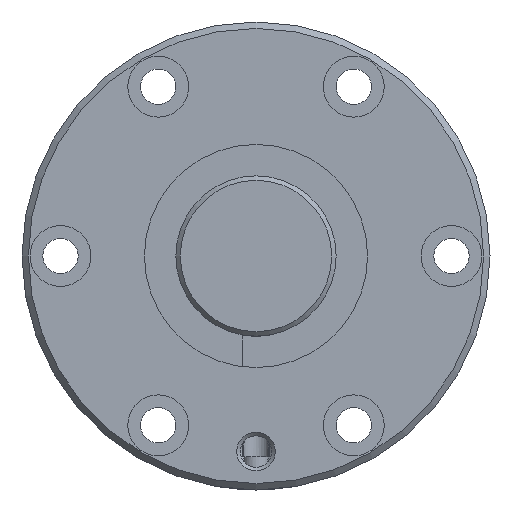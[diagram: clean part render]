
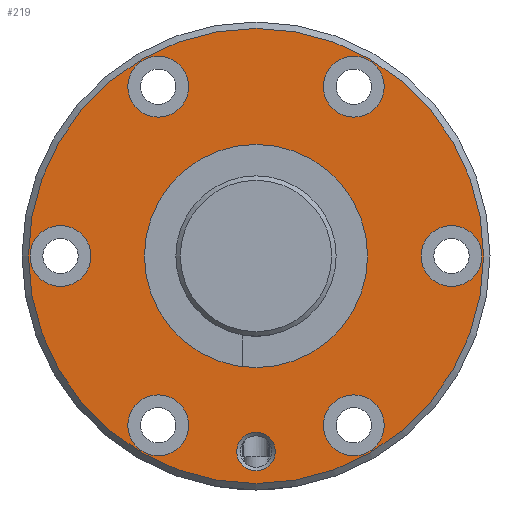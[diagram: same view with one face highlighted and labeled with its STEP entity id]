
A CAD part, left-side view. The second image highlights one B-rep face of the part: STEP entity #219.
In plain terms, the highlighted planar face has unit normal (-1, 0, 0).
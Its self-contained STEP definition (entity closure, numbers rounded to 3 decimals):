
#219 = ADVANCED_FACE( '', ( #390, #391, #392, #393, #394, #395, #396, #397, #398 ), #399, .T. );
#390 = FACE_BOUND( '', #629, .T. );
#391 = FACE_BOUND( '', #630, .T. );
#392 = FACE_BOUND( '', #631, .T. );
#393 = FACE_BOUND( '', #632, .T. );
#394 = FACE_BOUND( '', #633, .T. );
#395 = FACE_BOUND( '', #634, .T. );
#396 = FACE_BOUND( '', #635, .T. );
#397 = FACE_BOUND( '', #636, .T. );
#398 = FACE_OUTER_BOUND( '', #637, .T. );
#399 = PLANE( '', #638 );
#629 = EDGE_LOOP( '', ( #1059 ) );
#630 = EDGE_LOOP( '', ( #1060 ) );
#631 = EDGE_LOOP( '', ( #1061 ) );
#632 = EDGE_LOOP( '', ( #1062 ) );
#633 = EDGE_LOOP( '', ( #1063 ) );
#634 = EDGE_LOOP( '', ( #1064 ) );
#635 = EDGE_LOOP( '', ( #1065 ) );
#636 = EDGE_LOOP( '', ( #1066 ) );
#637 = EDGE_LOOP( '', ( #1067 ) );
#638 = AXIS2_PLACEMENT_3D( '', #1068, #1069, #1070 );
#1059 = ORIENTED_EDGE( '', *, *, #1342, .T. );
#1060 = ORIENTED_EDGE( '', *, *, #1343, .T. );
#1061 = ORIENTED_EDGE( '', *, *, #1265, .T. );
#1062 = ORIENTED_EDGE( '', *, *, #1341, .T. );
#1063 = ORIENTED_EDGE( '', *, *, #1344, .T. );
#1064 = ORIENTED_EDGE( '', *, *, #1345, .T. );
#1065 = ORIENTED_EDGE( '', *, *, #1346, .T. );
#1066 = ORIENTED_EDGE( '', *, *, #1347, .T. );
#1067 = ORIENTED_EDGE( '', *, *, #1348, .F. );
#1068 = CARTESIAN_POINT( '', ( 0., 35.5, 0. ) );
#1069 = DIRECTION( '', ( -1., 0., 0. ) );
#1070 = DIRECTION( '', ( 0., 0., 1. ) );
#1265 = EDGE_CURVE( '', #1419, #1419, #1420, .T. );
#1341 = EDGE_CURVE( '', #1549, #1549, #1550, .T. );
#1342 = EDGE_CURVE( '', #1551, #1551, #1552, .T. );
#1343 = EDGE_CURVE( '', #1553, #1553, #1554, .F. );
#1344 = EDGE_CURVE( '', #1555, #1555, #1556, .T. );
#1345 = EDGE_CURVE( '', #1557, #1557, #1558, .T. );
#1346 = EDGE_CURVE( '', #1559, #1559, #1560, .T. );
#1347 = EDGE_CURVE( '', #1561, #1561, #1562, .T. );
#1348 = EDGE_CURVE( '', #1563, #1563, #1564, .T. );
#1419 = VERTEX_POINT( '', #1770 );
#1420 = CIRCLE( '', #1771, 3. );
#1549 = VERTEX_POINT( '', #2136 );
#1550 = CIRCLE( '', #2137, 4.75 );
#1551 = VERTEX_POINT( '', #2138 );
#1552 = CIRCLE( '', #2139, 17.4 );
#1553 = VERTEX_POINT( '', #2140 );
#1554 = CIRCLE( '', #2141, 4.75 );
#1555 = VERTEX_POINT( '', #2142 );
#1556 = CIRCLE( '', #2143, 4.75 );
#1557 = VERTEX_POINT( '', #2144 );
#1558 = CIRCLE( '', #2145, 4.75 );
#1559 = VERTEX_POINT( '', #2146 );
#1560 = CIRCLE( '', #2147, 4.75 );
#1561 = VERTEX_POINT( '', #2148 );
#1562 = CIRCLE( '', #2149, 4.75 );
#1563 = VERTEX_POINT( '', #2150 );
#1564 = CIRCLE( '', #2151, 35.5 );
#1770 = CARTESIAN_POINT( '', ( 0., 0., -33.5 ) );
#1771 = AXIS2_PLACEMENT_3D( '', #2307, #2308, #2309 );
#2136 = CARTESIAN_POINT( '', ( 0., 15.25, 21.664 ) );
#2137 = AXIS2_PLACEMENT_3D( '', #2459, #2460, #2461 );
#2138 = CARTESIAN_POINT( '', ( 0., 0., -17.4 ) );
#2139 = AXIS2_PLACEMENT_3D( '', #2462, #2463, #2464 );
#2140 = CARTESIAN_POINT( '', ( 0., 30.5, 4.75 ) );
#2141 = AXIS2_PLACEMENT_3D( '', #2465, #2466, #2467 );
#2142 = CARTESIAN_POINT( '', ( 0., -15.25, -31.164 ) );
#2143 = AXIS2_PLACEMENT_3D( '', #2468, #2469, #2470 );
#2144 = CARTESIAN_POINT( '', ( 0., -15.25, 21.664 ) );
#2145 = AXIS2_PLACEMENT_3D( '', #2471, #2472, #2473 );
#2146 = CARTESIAN_POINT( '', ( 0., 15.25, -31.164 ) );
#2147 = AXIS2_PLACEMENT_3D( '', #2474, #2475, #2476 );
#2148 = CARTESIAN_POINT( '', ( 0., -30.5, -4.75 ) );
#2149 = AXIS2_PLACEMENT_3D( '', #2477, #2478, #2479 );
#2150 = CARTESIAN_POINT( '', ( 0., 0., -35.5 ) );
#2151 = AXIS2_PLACEMENT_3D( '', #2480, #2481, #2482 );
#2307 = CARTESIAN_POINT( '', ( 0., 0., -30.5 ) );
#2308 = DIRECTION( '', ( 1., 0., 0. ) );
#2309 = DIRECTION( '', ( 0., 0., -1. ) );
#2459 = CARTESIAN_POINT( '', ( 0., 15.25, 26.414 ) );
#2460 = DIRECTION( '', ( 1., 0., 0. ) );
#2461 = DIRECTION( '', ( 0., 0., -1. ) );
#2462 = CARTESIAN_POINT( '', ( 0., 0., 0. ) );
#2463 = DIRECTION( '', ( 1., 0., 0. ) );
#2464 = DIRECTION( '', ( 0., 0., -1. ) );
#2465 = CARTESIAN_POINT( '', ( 0., 30.5, 0. ) );
#2466 = DIRECTION( '', ( -1., 0., 0. ) );
#2467 = DIRECTION( '', ( 0., 0., 1. ) );
#2468 = CARTESIAN_POINT( '', ( 0., -15.25, -26.414 ) );
#2469 = DIRECTION( '', ( 1., 0., 0. ) );
#2470 = DIRECTION( '', ( 0., 0., -1. ) );
#2471 = CARTESIAN_POINT( '', ( 0., -15.25, 26.414 ) );
#2472 = DIRECTION( '', ( 1., 0., 0. ) );
#2473 = DIRECTION( '', ( 0., 0., -1. ) );
#2474 = CARTESIAN_POINT( '', ( 0., 15.25, -26.414 ) );
#2475 = DIRECTION( '', ( 1., 0., 0. ) );
#2476 = DIRECTION( '', ( 0., 0., -1. ) );
#2477 = CARTESIAN_POINT( '', ( 0., -30.5, 0. ) );
#2478 = DIRECTION( '', ( 1., 0., 0. ) );
#2479 = DIRECTION( '', ( 0., 0., -1. ) );
#2480 = CARTESIAN_POINT( '', ( 0., 0., 0. ) );
#2481 = DIRECTION( '', ( 1., 0., 0. ) );
#2482 = DIRECTION( '', ( 0., 0., -1. ) );
